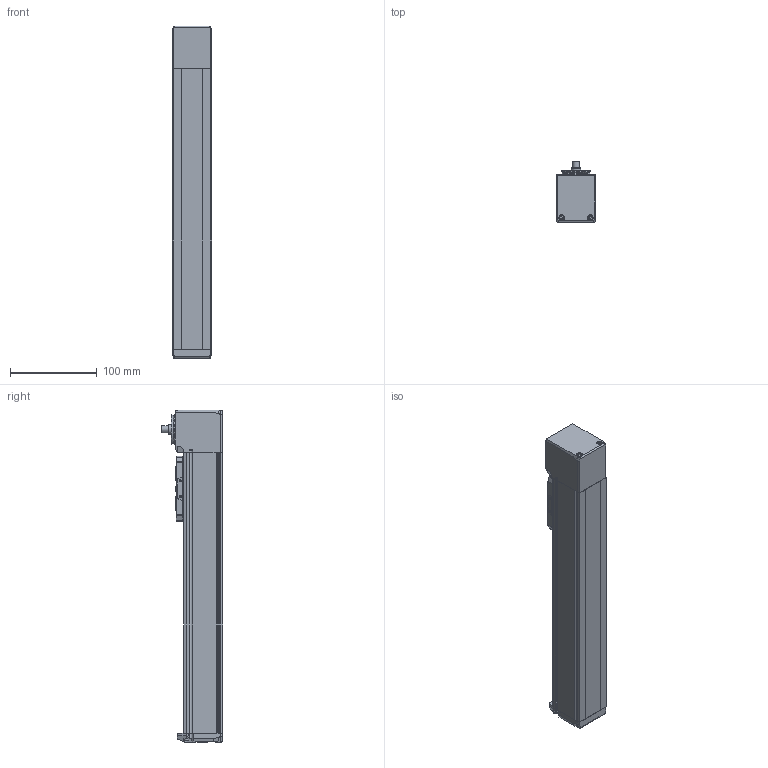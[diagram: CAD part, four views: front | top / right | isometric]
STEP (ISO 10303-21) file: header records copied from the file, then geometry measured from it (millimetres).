
FILE_DESCRIPTION(/* description */ ('STEP AP214'),/* implementation_level */ '2;1');
FILE_NAME(/* name */ 'MGTB 45 200(0)',/* time_stamp */ '2023-04-17T13:44:30+02:00',/* author */ ('License CC BY-ND 4.0'),/* organization */ ('CADENAS'),/* preprocessor_version */ 'ST-DEVELOPER v19.3',/* originating_system */ 'PARTsolutions',/* authorisation */ ' ');
FILE_SCHEMA (('AUTOMOTIVE_DESIGN {1 0 10303 214 3 1 1}'));
Length unit declared in the file: millimetre
Products named in the file (6): MGTB 45 200(0); MGTB 45 200_protection_strip; MGTB 45_carriage; MGTB 45_end_block; MGTB 45 200_profile; MGTB 45_drive_block
Assembly tree (5 placements, depth 2):
  MGTB 45 200(0)
    MGTB 45 200_protection_strip
    MGTB 45_carriage
    MGTB 45_end_block
    MGTB 45 200_profile
    MGTB 45_drive_block
Bounding box: 45 x 70.85 x 383 mm (x, y, z)
Volume: 785063.7 mm3; surface area: 130242.8 mm2
Topology: 5 solids, 5 shells, 689 faces, 1789 edges, 1148 vertices
Faces by surface type: plane 324, cylinder 173, cone 95, bspline 68, torus 27, sphere 2
Full cylindrical faces by diameter (mm): 1.755 x4, 2.459 x10, 2.5 x6, 3 x6, 3.242 x8, 3.8 x6, 4 x2, 4.5 x2, 5.5 x4, 6.5 x4, 8 x1, 11 x3, 12 x1, 17.12 x1, 17.5 x1, 22.5 x1, 22.88 x1, 24.5 x1, 28 x1, 34 x2
Entity records: 25091 total; most frequent: CARTESIAN_POINT 4283, DIRECTION 3440, ORIENTED_EDGE 3206, EDGE_CURVE 1603, AXIS2_PLACEMENT_3D 1244, VERTEX_POINT 1133, LINE 952, VECTOR 952
